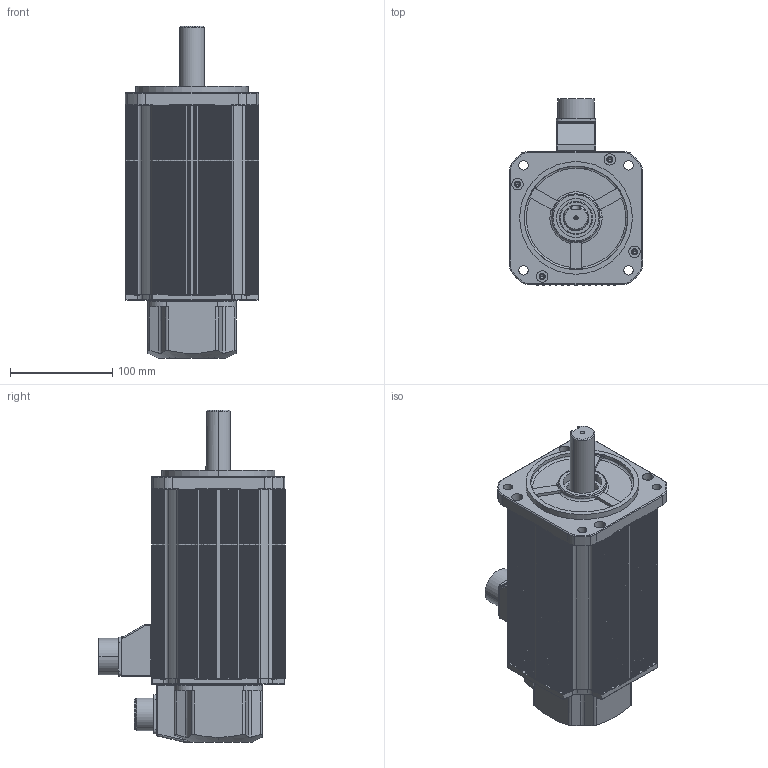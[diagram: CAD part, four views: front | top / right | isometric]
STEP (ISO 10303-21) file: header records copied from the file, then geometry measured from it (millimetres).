
FILE_DESCRIPTION (( 'STEP AP214' ), '1' );
FILE_NAME ('KAND-25B¡à1B2.STEP', '2026-09-12T01:55:06', ( '' ), ( '' ), 'SwSTEP 2.0', 'SolidWorks 2023', '' );
FILE_SCHEMA (( 'AUTOMOTIVE_DESIGN' ));
Length unit declared in the file: millimetre
Products named in the file (11): Ø24-KEY8X51; 10050511 RUBBER SEAL_MS20; KAND-25B□1B2; 1005052200 ENCODER COVER; MS3102A 20-29P; □130 BRACKET_BR; 10050523 GASKET_돌출형; MS3102A 20_표준; 10050579 CONNECTOR BOX_MS20; □130 FLANGE; □130-184mm
Assembly tree (10 placements, depth 2):
  KAND-25B□1B2
    □130-184mm
    □130 FLANGE
    □130 BRACKET_BR
    1005052200 ENCODER COVER
    10050523 GASKET_돌출형
    10050579 CONNECTOR BOX_MS20
    10050511 RUBBER SEAL_MS20
    MS3102A 20-29P
    MS3102A 20_표준
    Ø24-KEY8X51
Bounding box: 130 x 181.75 x 324.2 mm (x, y, z)
Volume: 785604.8 mm3; surface area: 429933.9 mm2
Topology: 10 solids, 10 shells, 2456 faces, 6821 edges, 4411 vertices
Faces by surface type: plane 1162, cylinder 966, torus 181, bspline 83, cone 54, sphere 10
Entity records: 82617 total; most frequent: CARTESIAN_POINT 18523, ORIENTED_EDGE 13514, DIRECTION 13490, EDGE_CURVE 6757, AXIS2_PLACEMENT_3D 4734, VERTEX_POINT 4411, VECTOR 4022, LINE 4022
